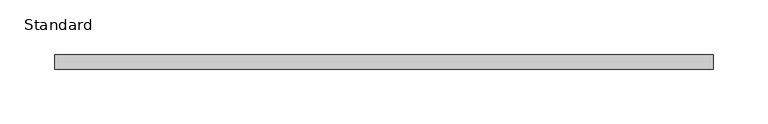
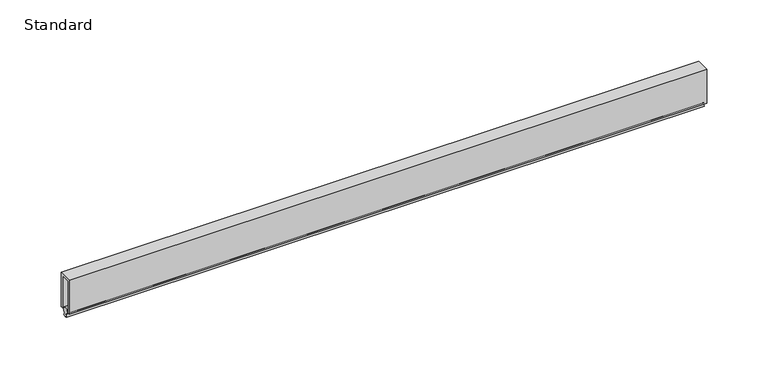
"""IFC4 building model written with IfcOpenShell, lengths in millimetres: furniture geometry, X_Partition-Seal-Duracube-Door Bottom : Standard."""

from ifc_helpers import new_model, si_unit, point, frame, frame_2d, origin, place, context, project, spatial, polyline, circle_curve, trimmed, segment, composite_curve, outline, extrude, source, transform, mapped, element, save


def standard_eb0c6a54(model_context):
    return source(origin(), model_context, "Body", "SweptSolid", [
        extrude(outline(polyline([(0.0, 40.0), (0.0, 6.0), (-2.0, 6.0), (-2.0, 38.0), (-11.0, 38.0), (-11.0, 6.0), (-13.0, 6.0), (-13.0, 40.0), (0.0, 40.0)])), frame((-255.2996736, 0.0, 0.0), z_axis=(1.0, 0.0, 0.0), x_axis=(0.0, 1.0, 0.0)), (0.0, 0.0, 1.0), 600.0),
        extrude(outline(composite_curve([segment(trimmed(circle_curve(frame_2d((-6.5, 6.0)), 3.0), [point((-7.5933176, 3.2063184))], [point((-5.4066824, 3.2063184))], False, "CARTESIAN"), True, "CONTINUOUS"), segment(polyline([(-5.4066824, 3.2063184), (-3.9951979, 0.7615556)]), True, "CONTINUOUS"), segment(trimmed(circle_curve(frame_2d((-6.5, 4.5)), 4.5), [point((-3.9951979, 0.7615556))], [point((-9.0048021, 0.7615556))], False, "CARTESIAN"), True, "CONTINUOUS"), segment(polyline([(-9.0048021, 0.7615556), (-7.5933176, 3.2063184)]), True, "CONTINUOUS")], self_intersect=False)), frame((-255.2996736, 0.0, 0.0), z_axis=(1.0, 0.0, 0.0), x_axis=(0.0, 1.0, 0.0)), (0.0, 0.0, 1.0), 600.0),
    ])


if __name__ == "__main__":
    model = new_model("IFC4")
    model_context = context("Model", 3, world=origin())
    ifc_project = project(units=[si_unit("LENGTHUNIT", "METRE", prefix="MILLI")], contexts=[model_context])
    site = spatial("IfcSite", under=ifc_project)
    building = spatial("IfcBuilding", under=site)
    placement = place(None, origin())
    standard_shape = standard_eb0c6a54(model_context)
    element("IfcFurniture", 1, ObjectType="X_Partition-Seal-Duracube-Door Bottom : Standard", at=placement, inside=building, context=model_context, shape_type="MappedRepresentation", body=[
        mapped(standard_shape, transform((0.0, 0.0, 0.0), x_axis=(1.0, 0.0, 0.0), y_axis=(0.0, 1.0, 0.0), z_axis=(0.0, 0.0, 1.0))),
    ])
    save(model, "model.ifc")
